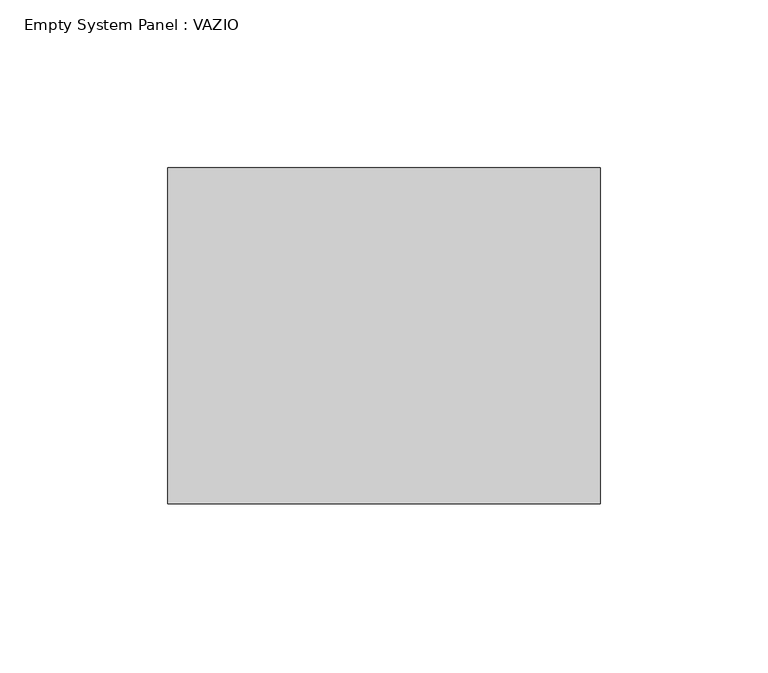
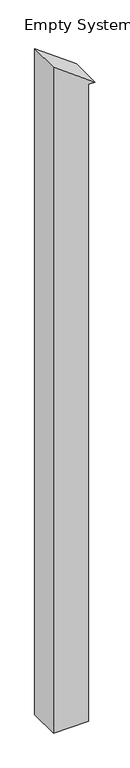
"""IFC4 building model written with IfcOpenShell, lengths in millimetres: plate geometry, Empty System Panel : VAZIO."""

from ifc_helpers import new_model, si_unit, point, frame, frame_2d, origin, place, context, project, spatial, polyline, circle_curve, trimmed, segment, composite_curve, outline, extrude, source, transform, mapped, element, save


def empty_system_panel_vazio_a0e43196(model_context):
    return source(origin(), model_context, "Body", "SweptSolid", [
        extrude(outline(composite_curve([segment(polyline([(0.0, -64.3902439), (0.0, 44.3902439), (2080.8562677, 44.3902439), (2080.8562677, 64.3902439)]), True, "CONTINUOUS"), segment(trimmed(circle_curve(frame_2d((-470.6496213, -1889.7560976)), 3213.8559746), [point((2080.8562677, 64.3902439))], [point((2174.5176184, -64.3902439))], False, "CARTESIAN"), True, "CONTINUOUS"), segment(polyline([(2174.5176184, -64.3902439), (0.0, -64.3902439)]), True, "CONTINUOUS")], self_intersect=False)), frame((0.0, -50.0, 0.0), z_axis=(0.0, 1.0, 0.0), x_axis=(0.0, 0.0, 1.0)), (0.0, 0.0, 1.0), 100.0),
    ])


if __name__ == "__main__":
    model = new_model("IFC4")
    model_context = context("Model", 3, world=origin())
    ifc_project = project(units=[si_unit("LENGTHUNIT", "METRE", prefix="MILLI")], contexts=[model_context])
    site = spatial("IfcSite", under=ifc_project)
    building = spatial("IfcBuilding", under=site)
    placement = place(None, origin())
    empty_system_panel_vazio_shape = empty_system_panel_vazio_a0e43196(model_context)
    element("IfcPlate", 1, ObjectType="Empty System Panel : VAZIO", at=placement, inside=building, context=model_context, shape_type="MappedRepresentation", body=[
        mapped(empty_system_panel_vazio_shape, transform((0.0, 0.0, 0.0), x_axis=(1.0, 0.0, 0.0), y_axis=(0.0, 1.0, 0.0), z_axis=(0.0, 0.0, 1.0))),
    ])
    save(model, "model.ifc")
